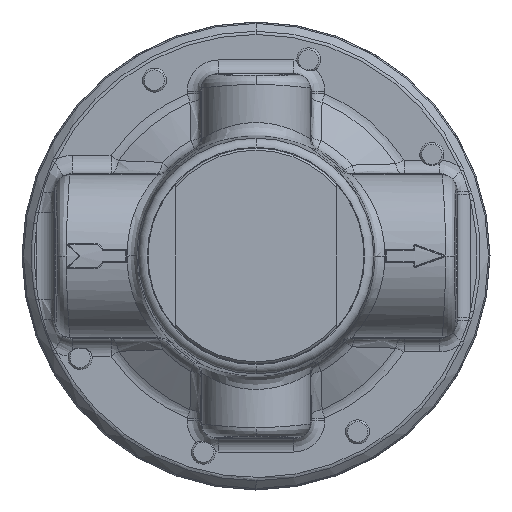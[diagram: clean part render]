
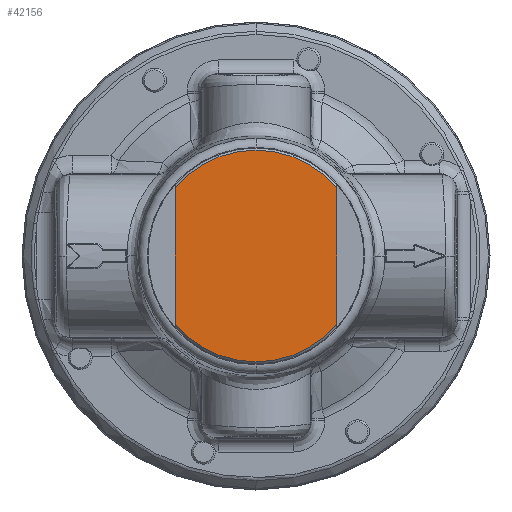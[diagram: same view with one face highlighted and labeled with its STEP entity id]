
A CAD part, front view. The second image highlights one B-rep face of the part: STEP entity #42156.
In plain terms, the highlighted planar face has unit normal (0, -1, 0).
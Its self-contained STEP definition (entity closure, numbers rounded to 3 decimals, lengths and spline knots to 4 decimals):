
#4423 = VECTOR ( 'NONE', #22451, 39.3701 ) ;
#4464 = AXIS2_PLACEMENT_3D ( 'NONE', #22452, #22453, #22454 ) ;
#4513 = CIRCLE ( 'NONE', #4464, 0.7325 ) ;
#4552 = CIRCLE ( 'NONE', #4583, 0.7325 ) ;
#4583 = AXIS2_PLACEMENT_3D ( 'NONE', #22448, #22449, #22450 ) ;
#4664 = VECTOR ( 'NONE', #22446, 39.3701 ) ;
#7190 = ORIENTED_EDGE ( 'NONE', *, *, #13982, .F. ) ;
#7191 = ORIENTED_EDGE ( 'NONE', *, *, #13983, .T. ) ;
#7192 = ORIENTED_EDGE ( 'NONE', *, *, #13986, .T. ) ;
#7193 = ORIENTED_EDGE ( 'NONE', *, *, #13988, .T. ) ;
#13982 = EDGE_CURVE ( 'NONE', #45491, #45497, #22441, .T. ) ;
#13983 = EDGE_CURVE ( 'NONE', #45491, #45501, #4552, .T. ) ;
#13986 = EDGE_CURVE ( 'NONE', #45501, #45502, #22447, .T. ) ;
#13988 = EDGE_CURVE ( 'NONE', #45502, #45497, #4513, .T. ) ;
#22431 = CARTESIAN_POINT ( 'NONE',  ( -0.5587, -1.906, 0. ) ) ;
#22441 = LINE ( 'NONE', #22431, #4664 ) ;
#22445 = CARTESIAN_POINT ( 'NONE',  ( 0.5587, -1.906, 0. ) ) ;
#22446 = DIRECTION ( 'NONE',  ( 0., 0., 1. ) ) ;
#22447 = LINE ( 'NONE', #22445, #4423 ) ;
#22448 = CARTESIAN_POINT ( 'NONE',  ( 0., -1.906, 0. ) ) ;
#22449 = DIRECTION ( 'NONE',  ( 0., -1., 0. ) ) ;
#22450 = DIRECTION ( 'NONE',  ( 1., 0., 0. ) ) ;
#22451 = DIRECTION ( 'NONE',  ( 0., 0., 1. ) ) ;
#22452 = CARTESIAN_POINT ( 'NONE',  ( 0., -1.906, 0. ) ) ;
#22453 = DIRECTION ( 'NONE',  ( 0., -1., 0. ) ) ;
#22454 = DIRECTION ( 'NONE',  ( 1., 0., 0. ) ) ;
#27185 = AXIS2_PLACEMENT_3D ( 'NONE', #37692, #37698, #37699 ) ;
#32393 = CARTESIAN_POINT ( 'NONE',  ( -0.5587, -1.906, -0.4737 ) ) ;
#32399 = CARTESIAN_POINT ( 'NONE',  ( -0.5587, -1.906, 0.4737 ) ) ;
#32403 = CARTESIAN_POINT ( 'NONE',  ( 0.5587, -1.906, -0.4737 ) ) ;
#32404 = CARTESIAN_POINT ( 'NONE',  ( 0.5587, -1.906, 0.4737 ) ) ;
#37692 = CARTESIAN_POINT ( 'NONE',  ( 0., -1.906, 0. ) ) ;
#37694 = FACE_OUTER_BOUND ( 'NONE', #43064, .T. ) ;
#37695 = PLANE ( 'NONE',  #27185 ) ;
#37698 = DIRECTION ( 'NONE',  ( 0., -1., 0. ) ) ;
#37699 = DIRECTION ( 'NONE',  ( 1., 0., 0. ) ) ;
#42156 = ADVANCED_FACE ( 'NONE', ( #37694 ), #37695, .T. ) ;
#43064 = EDGE_LOOP ( 'NONE', ( #7190, #7191, #7192, #7193 ) ) ;
#45491 = VERTEX_POINT ( 'NONE', #32393 ) ;
#45497 = VERTEX_POINT ( 'NONE', #32399 ) ;
#45501 = VERTEX_POINT ( 'NONE', #32403 ) ;
#45502 = VERTEX_POINT ( 'NONE', #32404 ) ;
